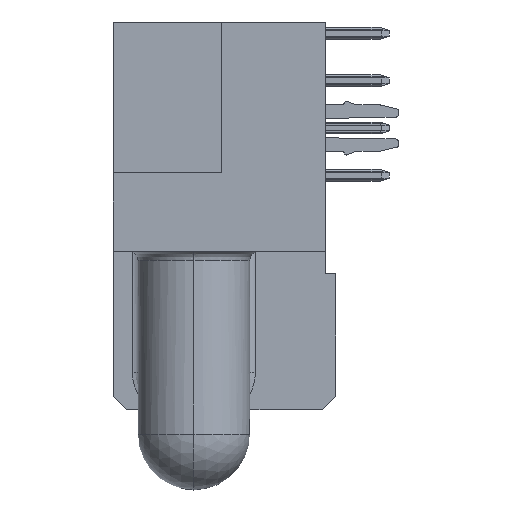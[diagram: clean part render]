
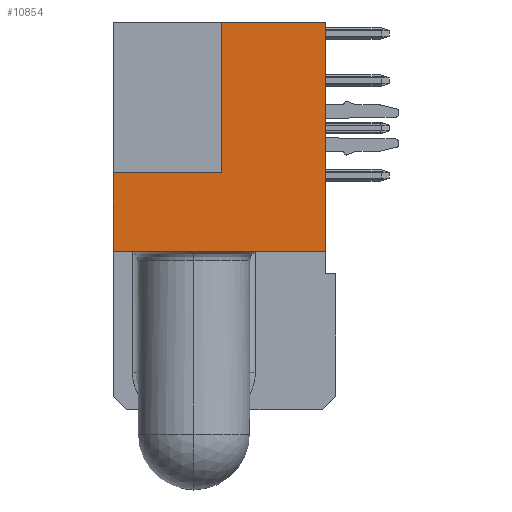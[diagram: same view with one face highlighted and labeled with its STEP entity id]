
A CAD part, left-side view. The second image highlights one B-rep face of the part: STEP entity #10854.
In plain terms, the highlighted planar face has unit normal (-1, 0, 0).
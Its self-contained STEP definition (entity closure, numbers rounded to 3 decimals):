
#1617 = EDGE_LOOP ( 'NONE', ( #11651, #11652, #11653, #11654, #11655, #11656 ) ) ;
#3804 = VERTEX_POINT ( 'NONE', #19594 ) ;
#3832 = VERTEX_POINT ( 'NONE', #19622 ) ;
#3860 = VERTEX_POINT ( 'NONE', #19649 ) ;
#3943 = VERTEX_POINT ( 'NONE', #19731 ) ;
#3953 = VERTEX_POINT ( 'NONE', #19741 ) ;
#3962 = VERTEX_POINT ( 'NONE', #19750 ) ;
#10403 = EDGE_CURVE ( 'NONE', #3804, #3832, #29139, .T. ) ;
#10458 = EDGE_CURVE ( 'NONE', #3860, #3804, #29573, .T. ) ;
#10854 = ADVANCED_FACE ( 'NONE', ( #31690 ), #31691, .F. ) ;
#10919 = EDGE_CURVE ( 'NONE', #3832, #3943, #32453, .T. ) ;
#10978 = EDGE_CURVE ( 'NONE', #3860, #3962, #32644, .T. ) ;
#10979 = EDGE_CURVE ( 'NONE', #3953, #3962, #32627, .T. ) ;
#10980 = EDGE_CURVE ( 'NONE', #3953, #3943, #32628, .T. ) ;
#11651 = ORIENTED_EDGE ( 'NONE', *, *, #10458, .F. ) ;
#11652 = ORIENTED_EDGE ( 'NONE', *, *, #10978, .T. ) ;
#11653 = ORIENTED_EDGE ( 'NONE', *, *, #10979, .F. ) ;
#11654 = ORIENTED_EDGE ( 'NONE', *, *, #10980, .T. ) ;
#11655 = ORIENTED_EDGE ( 'NONE', *, *, #10919, .F. ) ;
#11656 = ORIENTED_EDGE ( 'NONE', *, *, #10403, .F. ) ;
#19594 = CARTESIAN_POINT ( 'NONE',  ( 10.16, 6.14, 4.2 ) ) ;
#19622 = CARTESIAN_POINT ( 'NONE',  ( 10.16, 6.14, 12.3 ) ) ;
#19649 = CARTESIAN_POINT ( 'NONE',  ( 10.16, 11.94, 4.2 ) ) ;
#19731 = CARTESIAN_POINT ( 'NONE',  ( 10.16, 0.55, 12.3 ) ) ;
#19741 = CARTESIAN_POINT ( 'NONE',  ( 10.16, 0.55, 0. ) ) ;
#19750 = CARTESIAN_POINT ( 'NONE',  ( 10.16, 11.94, 0. ) ) ;
#29139 = LINE ( 'NONE', #29140, #29414 ) ;
#29140 = CARTESIAN_POINT ( 'NONE',  ( 10.16, 6.14, 6.15 ) ) ;
#29141 = DIRECTION ( 'NONE',  ( 0., 0., 1. ) ) ;
#29414 = VECTOR ( 'NONE', #29141, 1000. ) ;
#29464 = VECTOR ( 'NONE', #29598, 1000. ) ;
#29573 = LINE ( 'NONE', #29597, #29464 ) ;
#29597 = CARTESIAN_POINT ( 'NONE',  ( 10.16, 6.245, 4.2 ) ) ;
#29598 = DIRECTION ( 'NONE',  ( 0., -1., 0. ) ) ;
#31681 = CARTESIAN_POINT ( 'NONE',  ( 10.16, 0.55, 12.3 ) ) ;
#31690 = FACE_OUTER_BOUND ( 'NONE', #1617, .T. ) ;
#31691 = PLANE ( 'NONE',  #32123 ) ;
#31693 = DIRECTION ( 'NONE',  ( 1., 0., 0. ) ) ;
#31694 = DIRECTION ( 'NONE',  ( 0., 0., -1. ) ) ;
#32123 = AXIS2_PLACEMENT_3D ( 'NONE', #31681, #31693, #31694 ) ;
#32180 = VECTOR ( 'NONE', #32456, 1000. ) ;
#32236 = VECTOR ( 'NONE', #32650, 1000. ) ;
#32238 = VECTOR ( 'NONE', #32652, 1000. ) ;
#32239 = VECTOR ( 'NONE', #32647, 1000. ) ;
#32453 = LINE ( 'NONE', #32455, #32180 ) ;
#32455 = CARTESIAN_POINT ( 'NONE',  ( 10.16, 6.245, 12.3 ) ) ;
#32456 = DIRECTION ( 'NONE',  ( 0., -1., 0. ) ) ;
#32627 = LINE ( 'NONE', #32648, #32236 ) ;
#32628 = LINE ( 'NONE', #32651, #32238 ) ;
#32644 = LINE ( 'NONE', #32646, #32239 ) ;
#32646 = CARTESIAN_POINT ( 'NONE',  ( 10.16, 11.94, 2.25 ) ) ;
#32647 = DIRECTION ( 'NONE',  ( 0., 0., -1. ) ) ;
#32648 = CARTESIAN_POINT ( 'NONE',  ( 10.16, 6.245, 0. ) ) ;
#32650 = DIRECTION ( 'NONE',  ( 0., 1., 0. ) ) ;
#32651 = CARTESIAN_POINT ( 'NONE',  ( 10.16, 0.55, 5.55 ) ) ;
#32652 = DIRECTION ( 'NONE',  ( 0., 0., 1. ) ) ;
